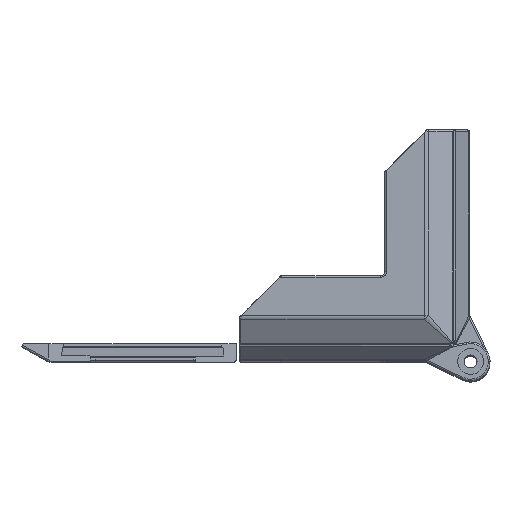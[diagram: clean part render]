
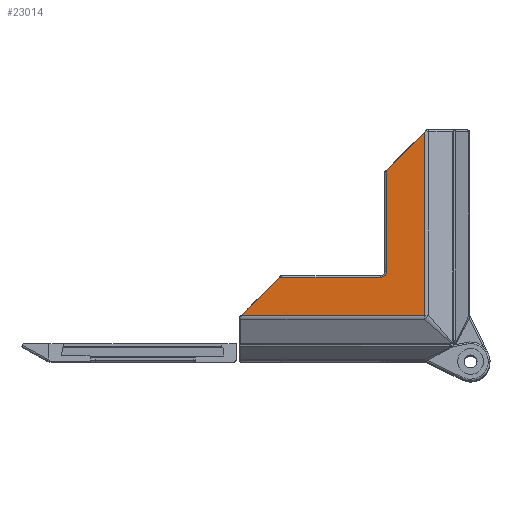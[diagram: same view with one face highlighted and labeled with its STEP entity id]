
A CAD part, top view. The second image highlights one B-rep face of the part: STEP entity #23014.
In plain terms, the highlighted planar face has unit normal (0, 0, 1).
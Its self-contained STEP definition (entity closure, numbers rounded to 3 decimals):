
#22816 = EDGE_CURVE('',#22817,#22819,#22821,.T.);
#22817 = VERTEX_POINT('',#22818);
#22818 = CARTESIAN_POINT('',(-15.1,39.9,4.2));
#22819 = VERTEX_POINT('',#22820);
#22820 = CARTESIAN_POINT('',(-6.311,48.689,
    4.2));
#22821 = LINE('',#22822,#22823);
#22822 = CARTESIAN_POINT('',(-15.25,39.75,4.2));
#22823 = VECTOR('',#22824,1.);
#22824 = DIRECTION('',(0.707,0.707,0.));
#23014 = ADVANCED_FACE('',(#23015),#23073,.F.);
#23015 = FACE_BOUND('',#23016,.F.);
#23016 = EDGE_LOOP('',(#23017,#23027,#23035,#23043,#23052,#23058,#23059,
    #23067));
#23017 = ORIENTED_EDGE('',*,*,#23018,.F.);
#23018 = EDGE_CURVE('',#23019,#23021,#23023,.T.);
#23019 = VERTEX_POINT('',#23020);
#23020 = CARTESIAN_POINT('',(-39.9,15.1,4.2));
#23021 = VERTEX_POINT('',#23022);
#23022 = CARTESIAN_POINT('',(-48.689,6.311,
    4.2));
#23023 = LINE('',#23024,#23025);
#23024 = CARTESIAN_POINT('',(-39.75,15.25,4.2));
#23025 = VECTOR('',#23026,1.);
#23026 = DIRECTION('',(-0.707,-0.707,0.));
#23027 = ORIENTED_EDGE('',*,*,#23028,.T.);
#23028 = EDGE_CURVE('',#23019,#23029,#23031,.T.);
#23029 = VERTEX_POINT('',#23030);
#23030 = CARTESIAN_POINT('',(-39.334,15.1,4.2));
#23031 = LINE('',#23032,#23033);
#23032 = CARTESIAN_POINT('',(-39.9,15.1,4.2));
#23033 = VECTOR('',#23034,1.);
#23034 = DIRECTION('',(1.,0.,0.));
#23035 = ORIENTED_EDGE('',*,*,#23036,.T.);
#23036 = EDGE_CURVE('',#23029,#23037,#23039,.T.);
#23037 = VERTEX_POINT('',#23038);
#23038 = CARTESIAN_POINT('',(-16.5,15.1,4.2));
#23039 = LINE('',#23040,#23041);
#23040 = CARTESIAN_POINT('',(-39.5,15.1,4.2));
#23041 = VECTOR('',#23042,1.);
#23042 = DIRECTION('',(1.,0.,0.));
#23043 = ORIENTED_EDGE('',*,*,#23044,.T.);
#23044 = EDGE_CURVE('',#23037,#23045,#23047,.T.);
#23045 = VERTEX_POINT('',#23046);
#23046 = CARTESIAN_POINT('',(-15.1,16.5,4.2));
#23047 = CIRCLE('',#23048,1.4);
#23048 = AXIS2_PLACEMENT_3D('',#23049,#23050,#23051);
#23049 = CARTESIAN_POINT('',(-16.5,16.5,4.2));
#23050 = DIRECTION('',(0.,0.,1.));
#23051 = DIRECTION('',(0.,-1.,0.));
#23052 = ORIENTED_EDGE('',*,*,#23053,.T.);
#23053 = EDGE_CURVE('',#23045,#22817,#23054,.T.);
#23054 = LINE('',#23055,#23056);
#23055 = CARTESIAN_POINT('',(-15.1,15.5,4.2));
#23056 = VECTOR('',#23057,1.);
#23057 = DIRECTION('',(0.,1.,0.));
#23058 = ORIENTED_EDGE('',*,*,#22816,.T.);
#23059 = ORIENTED_EDGE('',*,*,#23060,.T.);
#23060 = EDGE_CURVE('',#22819,#23061,#23063,.T.);
#23061 = VERTEX_POINT('',#23062);
#23062 = CARTESIAN_POINT('',(-6.311,6.311,
    4.2));
#23063 = LINE('',#23064,#23065);
#23064 = CARTESIAN_POINT('',(-6.311,49.2,
    4.2));
#23065 = VECTOR('',#23066,1.);
#23066 = DIRECTION('',(0.,-1.,0.));
#23067 = ORIENTED_EDGE('',*,*,#23068,.F.);
#23068 = EDGE_CURVE('',#23021,#23061,#23069,.T.);
#23069 = LINE('',#23070,#23071);
#23070 = CARTESIAN_POINT('',(-49.2,6.311,
    4.2));
#23071 = VECTOR('',#23072,1.);
#23072 = DIRECTION('',(1.,0.,0.));
#23073 = PLANE('',#23074);
#23074 = AXIS2_PLACEMENT_3D('',#23075,#23076,#23077);
#23075 = CARTESIAN_POINT('',(0.043,0.,
    4.2));
#23076 = DIRECTION('',(0.,0.,-1.));
#23077 = DIRECTION('',(-1.,0.,0.));
